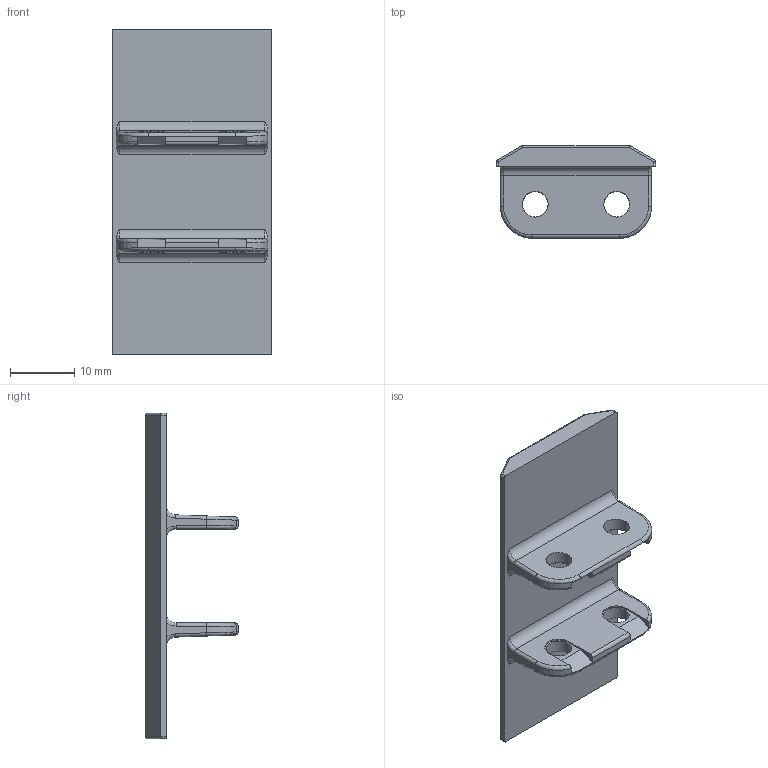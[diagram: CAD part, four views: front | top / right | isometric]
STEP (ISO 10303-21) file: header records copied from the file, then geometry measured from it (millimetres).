
FILE_DESCRIPTION((''),'2;1');
FILE_NAME('P1289','2015-12-02T',('bhe'),(''),'CREO PARAMETRIC BY PTC INC, 2015290','CREO PARAMETRIC BY PTC INC, 2015290','');
FILE_SCHEMA(('CONFIG_CONTROL_DESIGN'));
Length unit declared in the file: millimetre
Products named in the file (1): P1289
Bounding box: 24.89 x 14.38 x 50.8 mm (x, y, z)
Volume: 4525.4 mm3; surface area: 3799.4 mm2
Topology: 1 solids, 1 shells, 92 faces, 236 edges, 148 vertices
Faces by surface type: cylinder 42, plane 34, torus 12, bspline 4
Entity records: 3446 total; most frequent: CARTESIAN_POINT 1200, ORIENTED_EDGE 472, DIRECTION 440, EDGE_CURVE 236, AXIS2_PLACEMENT_3D 156, VERTEX_POINT 148, VECTOR 128, LINE 128
